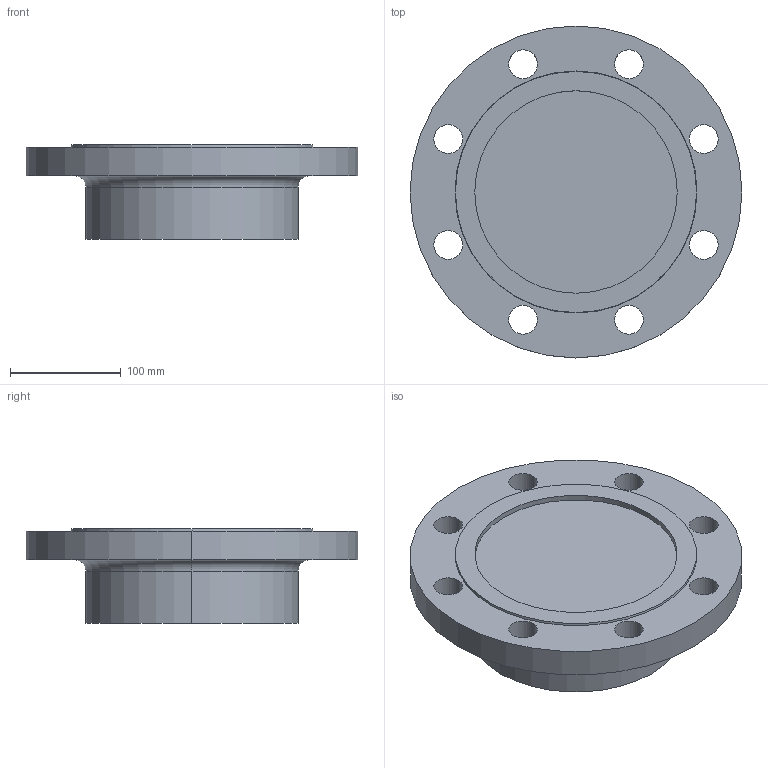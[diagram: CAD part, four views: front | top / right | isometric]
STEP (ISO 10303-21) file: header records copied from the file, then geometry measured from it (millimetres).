
FILE_DESCRIPTION (( 'STEP AP214' ), '1' );
FILE_NAME ('PN40 DN150 Type 21(i) - Type G Face.STEP', '2019-01-04T21:39:28', ( '' ), ( '' ), 'SwSTEP 2.0', 'SolidWorks 2019', '' );
FILE_SCHEMA (( 'AUTOMOTIVE_DESIGN' ));
Length unit declared in the file: millimetre
Products named in the file (1): PN40 DN150 Type 21(i) - Type G Face
Bounding box: 300 x 300 x 85 mm (x, y, z)
Volume: 3334341.7 mm3; surface area: 210233.9 mm2
Topology: 1 solids, 1 shells, 31 faces, 76 edges, 50 vertices
Faces by surface type: cylinder 22, plane 5, torus 2, cone 2
Entity records: 1012 total; most frequent: DIRECTION 192, CARTESIAN_POINT 158, ORIENTED_EDGE 152, AXIS2_PLACEMENT_3D 84, EDGE_CURVE 76, CIRCLE 52, EDGE_LOOP 50, VERTEX_POINT 50
